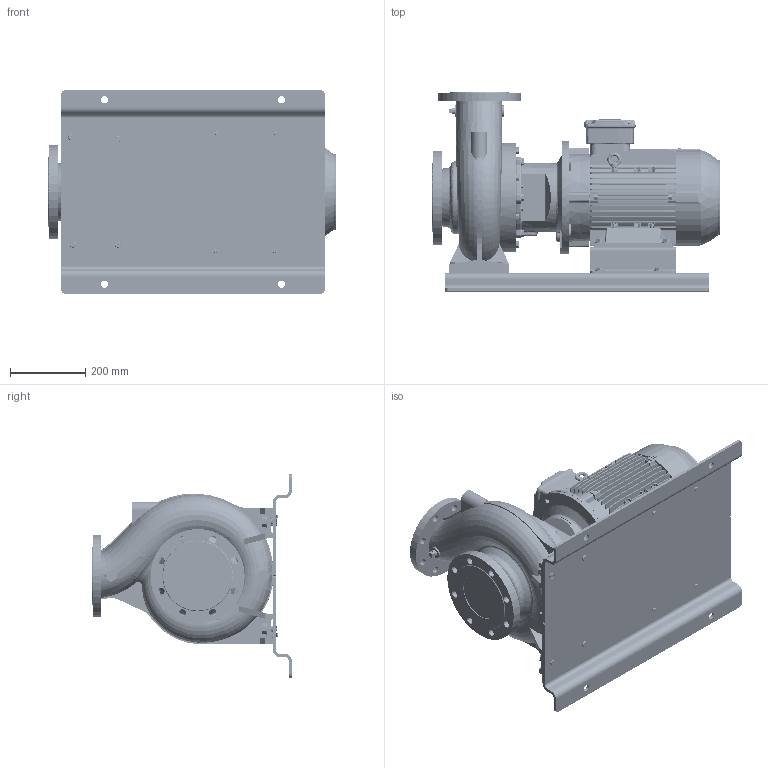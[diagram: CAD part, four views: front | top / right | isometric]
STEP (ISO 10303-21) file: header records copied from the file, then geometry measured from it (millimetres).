
FILE_DESCRIPTION (( 'STEP AP214' ), '1' );
FILE_NAME ('GSD4 100-200_7.5_(132M)_W21_BP.STEP', '2026-05-08T06:18:53', ( '' ), ( '' ), 'SwSTEP 2.0', 'SolidWorks 2024', '' );
FILE_SCHEMA (( 'AUTOMOTIVE_DESIGN' ));
Length unit declared in the file: millimetre
Products named in the file (10): 100-200-132M_ﾃﾞﾌｫﾙﾄ; Parametric Flat Washer_M16; 140_178 x 68 BP - 271472191; Parametric bolt_SFT-A249B; Parametric bolt_SFT-A253B; Parametric Flat Washer_M10; Parametric bolt_SFT-A351B; GSD4 100-200_7.5_(132M)_W21_BP; 132M ALIE3_W21T_B35; N6S6 GSDA-663 F1-1832933-00
Assembly tree (28 placements, depth 2):
  GSD4 100-200_7.5_(132M)_W21_BP
    100-200-132M_ﾃﾞﾌｫﾙﾄ
    N6S6 GSDA-663 F1-1832933-00
    140_178 x 68 BP - 271472191
    Parametric bolt_SFT-A249B  x4
    Parametric bolt_SFT-A253B  x4
    Parametric bolt_SFT-A351B  x4
    Parametric Flat Washer_M16  x4
    Parametric Flat Washer_M10  x8
    132M ALIE3_W21T_B35
Bounding box: 764.8 x 530 x 540 mm (x, y, z)
Volume: 43989565.7 mm3; surface area: 3238006.5 mm2
Topology: 32 solids, 32 shells, 5177 faces, 13490 edges, 8708 vertices
Faces by surface type: plane 2949, cylinder 1324, bspline 317, torus 307, cone 248, sphere 32
Entity records: 197935 total; most frequent: CARTESIAN_POINT 85255, ORIENTED_EDGE 24406, DIRECTION 21752, EDGE_CURVE 12203, VECTOR 7930, LINE 7930, VERTEX_POINT 7889, AXIS2_PLACEMENT_3D 6911
